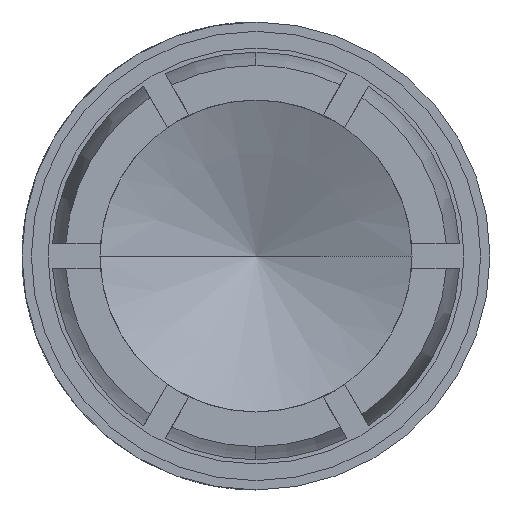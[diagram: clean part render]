
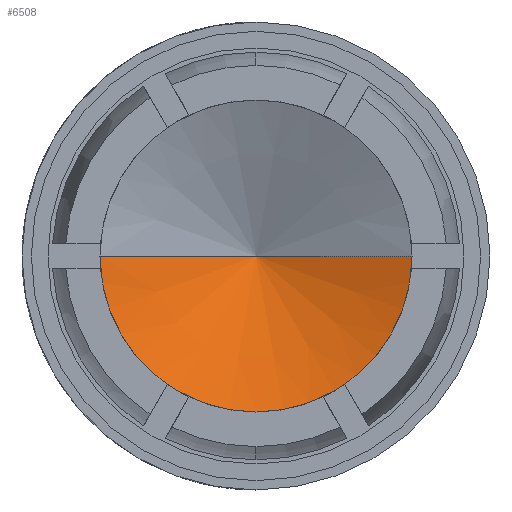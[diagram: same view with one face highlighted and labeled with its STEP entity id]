
A CAD part, left-side view. The second image highlights one B-rep face of the part: STEP entity #6508.
In plain terms, the highlighted conical face has half-angle 67.5 degrees and reference radius 2414.21 mm.
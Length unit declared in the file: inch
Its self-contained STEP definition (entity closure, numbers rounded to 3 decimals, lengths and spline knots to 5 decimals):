
#238 = DIRECTION ( 'NONE',  ( 0., 1., 0. ) ) ;
#392 = EDGE_CURVE ( 'NONE', #3762, #4803, #7349, .T. ) ;
#408 = VECTOR ( 'NONE', #3223, 39.37008 ) ;
#592 = CIRCLE ( 'NONE', #2118, 0.375 ) ;
#649 = EDGE_LOOP ( 'NONE', ( #5353, #3455, #3422 ) ) ;
#983 = CARTESIAN_POINT ( 'NONE',  ( -0.1875, -0.375, 0. ) ) ;
#1144 = AXIS2_PLACEMENT_3D ( 'NONE', #7406, #2535, #3764 ) ;
#1376 = CARTESIAN_POINT ( 'NONE',  ( -0.1875, 0.375, 0. ) ) ;
#2118 = AXIS2_PLACEMENT_3D ( 'NONE', #7487, #3841, #238 ) ;
#2535 = DIRECTION ( 'NONE',  ( -1., 0., 0. ) ) ;
#2605 = CARTESIAN_POINT ( 'NONE',  ( -0.03217, 0., 0. ) ) ;
#2675 = VECTOR ( 'NONE', #6665, 39.37008 ) ;
#3223 = DIRECTION ( 'NONE',  ( -0.383, -0.924, 0. ) ) ;
#3422 = ORIENTED_EDGE ( 'NONE', *, *, #6191, .F. ) ;
#3455 = ORIENTED_EDGE ( 'NONE', *, *, #392, .T. ) ;
#3567 = CARTESIAN_POINT ( 'NONE',  ( -0.03217, 0., 0. ) ) ;
#3695 = LINE ( 'NONE', #2605, #408 ) ;
#3762 = VERTEX_POINT ( 'NONE', #5130 ) ;
#3764 = DIRECTION ( 'NONE',  ( 0., -1., 0. ) ) ;
#3841 = DIRECTION ( 'NONE',  ( 1., 0., 0. ) ) ;
#4266 = CONICAL_SURFACE ( 'NONE', #1144, 95.04778, 1.178 ) ;
#4803 = VERTEX_POINT ( 'NONE', #1376 ) ;
#5130 = CARTESIAN_POINT ( 'NONE',  ( -0.03217, 0., 0. ) ) ;
#5353 = ORIENTED_EDGE ( 'NONE', *, *, #6199, .F. ) ;
#6086 = FACE_OUTER_BOUND ( 'NONE', #649, .T. ) ;
#6191 = EDGE_CURVE ( 'NONE', #6353, #4803, #592, .T. ) ;
#6199 = EDGE_CURVE ( 'NONE', #3762, #6353, #3695, .T. ) ;
#6353 = VERTEX_POINT ( 'NONE', #983 ) ;
#6508 = ADVANCED_FACE ( 'NONE', ( #6086 ), #4266, .F. ) ;
#6665 = DIRECTION ( 'NONE',  ( -0.383, 0.924, 0. ) ) ;
#7349 = LINE ( 'NONE', #3567, #2675 ) ;
#7406 = CARTESIAN_POINT ( 'NONE',  ( -39.40225, 0., 0. ) ) ;
#7487 = CARTESIAN_POINT ( 'NONE',  ( -0.1875, 0., 0. ) ) ;
